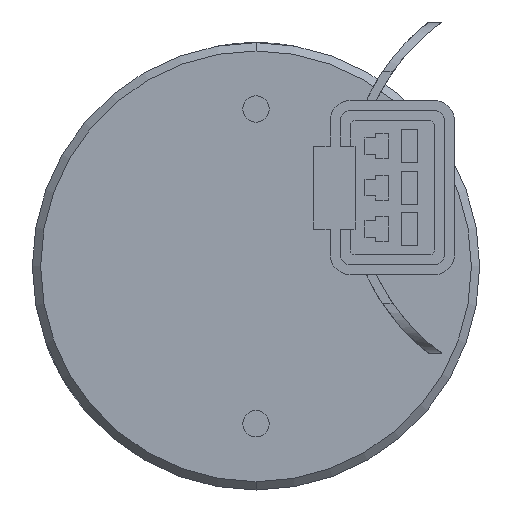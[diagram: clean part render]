
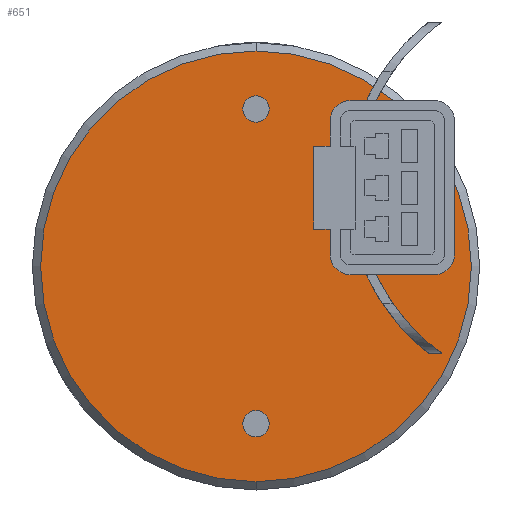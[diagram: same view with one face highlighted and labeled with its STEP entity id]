
A CAD part, left-side view. The second image highlights one B-rep face of the part: STEP entity #651.
In plain terms, the highlighted planar face has unit normal (-1, 0, 0).
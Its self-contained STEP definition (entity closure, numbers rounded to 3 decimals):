
#447 = EDGE_CURVE ( 'NONE', #16624, #16671, #17635, .T. ) ;
#448 = EDGE_LOOP ( 'NONE', ( #459, #619 ) ) ;
#449 = ORIENTED_EDGE ( 'NONE', *, *, #16607, .F. ) ;
#450 = EDGE_LOOP ( 'NONE', ( #454, #457 ) ) ;
#452 = EDGE_CURVE ( 'NONE', #16759, #16611, #17546, .T. ) ;
#454 = ORIENTED_EDGE ( 'NONE', *, *, #452, .F. ) ;
#455 = ORIENTED_EDGE ( 'NONE', *, *, #456, .F. ) ;
#456 = EDGE_CURVE ( 'NONE', #16749, #16713, #17655, .T. ) ;
#457 = ORIENTED_EDGE ( 'NONE', *, *, #16767, .F. ) ;
#459 = ORIENTED_EDGE ( 'NONE', *, *, #447, .T. ) ;
#606 = ORIENTED_EDGE ( 'NONE', *, *, #16650, .F. ) ;
#607 = EDGE_LOOP ( 'NONE', ( #624, #606 ) ) ;
#619 = ORIENTED_EDGE ( 'NONE', *, *, #16817, .T. ) ;
#620 = EDGE_CURVE ( 'NONE', #16648, #16804, #4085, .T. ) ;
#624 = ORIENTED_EDGE ( 'NONE', *, *, #620, .F. ) ;
#651 = ADVANCED_FACE ( 'NONE', ( #4207, #4196, #4185, #4208 ), #4133, .F. ) ;
#652 = EDGE_LOOP ( 'NONE', ( #455, #449 ) ) ;
#4072 = DIRECTION ( 'NONE',  ( 0., 0., 1. ) ) ;
#4073 = DIRECTION ( 'NONE',  ( -1., 0., 0. ) ) ;
#4074 = AXIS2_PLACEMENT_3D ( 'NONE', #4087, #4073, #4072 ) ;
#4085 = CIRCLE ( 'NONE', #4074, 1.65 ) ;
#4087 = CARTESIAN_POINT ( 'NONE',  ( 0., -8.227, 4.75 ) ) ;
#4111 = AXIS2_PLACEMENT_3D ( 'NONE', #4217, #4215, #4214 ) ;
#4133 = PLANE ( 'NONE',  #4111 ) ;
#4185 = FACE_BOUND ( 'NONE', #450, .T. ) ;
#4196 = FACE_BOUND ( 'NONE', #652, .T. ) ;
#4207 = FACE_BOUND ( 'NONE', #607, .T. ) ;
#4208 = FACE_OUTER_BOUND ( 'NONE', #448, .T. ) ;
#4214 = DIRECTION ( 'NONE',  ( 0., 0., -1. ) ) ;
#4215 = DIRECTION ( 'NONE',  ( 1., 0., 0. ) ) ;
#4217 = CARTESIAN_POINT ( 'NONE',  ( 0., 0., 0. ) ) ;
#8189 = CARTESIAN_POINT ( 'NONE',  ( 0., -8.227, 6.4 ) ) ;
#8267 = DIRECTION ( 'NONE',  ( 0., 0., 1. ) ) ;
#8268 = DIRECTION ( 'NONE',  ( -1., 0., 0. ) ) ;
#8269 = CARTESIAN_POINT ( 'NONE',  ( 0., -8.227, 4.75 ) ) ;
#8270 = AXIS2_PLACEMENT_3D ( 'NONE', #8269, #8268, #8267 ) ;
#8292 = CIRCLE ( 'NONE', #8270, 1.65 ) ;
#8328 = CARTESIAN_POINT ( 'NONE',  ( 0., 0., 13. ) ) ;
#8594 = CARTESIAN_POINT ( 'NONE',  ( 0., 0., 10.3 ) ) ;
#8643 = CARTESIAN_POINT ( 'NONE',  ( 0., 0., -8.7 ) ) ;
#8684 = CARTESIAN_POINT ( 'NONE',  ( 0., 0., 8.7 ) ) ;
#8691 = CIRCLE ( 'NONE', #8698, 0.8 ) ;
#8696 = DIRECTION ( 'NONE',  ( -1., 0., 0. ) ) ;
#8697 = CARTESIAN_POINT ( 'NONE',  ( 0., 0., -9.5 ) ) ;
#8698 = AXIS2_PLACEMENT_3D ( 'NONE', #8697, #8696, #8729 ) ;
#8729 = DIRECTION ( 'NONE',  ( 0., 0., 1. ) ) ;
#8798 = CARTESIAN_POINT ( 'NONE',  ( 0., -8.227, 3.1 ) ) ;
#8985 = DIRECTION ( 'NONE',  ( -1., 0., 0. ) ) ;
#8989 = CARTESIAN_POINT ( 'NONE',  ( 0., 0., 0. ) ) ;
#8990 = CIRCLE ( 'NONE', #9020, 13. ) ;
#9016 = DIRECTION ( 'NONE',  ( 0., 0., -1. ) ) ;
#9020 = AXIS2_PLACEMENT_3D ( 'NONE', #8989, #8985, #9016 ) ;
#14624 = AXIS2_PLACEMENT_3D ( 'NONE', #14691, #14690, #14689 ) ;
#14669 = CIRCLE ( 'NONE', #14624, 0.8 ) ;
#14689 = DIRECTION ( 'NONE',  ( 0., 0., -1. ) ) ;
#14690 = DIRECTION ( 'NONE',  ( -1., 0., 0. ) ) ;
#14691 = CARTESIAN_POINT ( 'NONE',  ( 0., 0., 9.5 ) ) ;
#14708 = CARTESIAN_POINT ( 'NONE',  ( 0., 0., -13. ) ) ;
#14725 = CARTESIAN_POINT ( 'NONE',  ( 0., 0., -10.3 ) ) ;
#16607 = EDGE_CURVE ( 'NONE', #16713, #16749, #14669, .T. ) ;
#16611 = VERTEX_POINT ( 'NONE', #14725 ) ;
#16624 = VERTEX_POINT ( 'NONE', #14708 ) ;
#16648 = VERTEX_POINT ( 'NONE', #8189 ) ;
#16650 = EDGE_CURVE ( 'NONE', #16804, #16648, #8292, .T. ) ;
#16671 = VERTEX_POINT ( 'NONE', #8328 ) ;
#16713 = VERTEX_POINT ( 'NONE', #8684 ) ;
#16749 = VERTEX_POINT ( 'NONE', #8594 ) ;
#16759 = VERTEX_POINT ( 'NONE', #8643 ) ;
#16767 = EDGE_CURVE ( 'NONE', #16611, #16759, #8691, .T. ) ;
#16804 = VERTEX_POINT ( 'NONE', #8798 ) ;
#16817 = EDGE_CURVE ( 'NONE', #16671, #16624, #8990, .T. ) ;
#17535 = CARTESIAN_POINT ( 'NONE',  ( 0., 0., 9.5 ) ) ;
#17546 = CIRCLE ( 'NONE', #17643, 0.8 ) ;
#17631 = DIRECTION ( 'NONE',  ( 0., 0., -1. ) ) ;
#17632 = DIRECTION ( 'NONE',  ( -1., 0., 0. ) ) ;
#17633 = CARTESIAN_POINT ( 'NONE',  ( 0., 0., 0. ) ) ;
#17634 = AXIS2_PLACEMENT_3D ( 'NONE', #17633, #17632, #17631 ) ;
#17635 = CIRCLE ( 'NONE', #17634, 13. ) ;
#17641 = DIRECTION ( 'NONE',  ( -1., 0., 0. ) ) ;
#17642 = CARTESIAN_POINT ( 'NONE',  ( 0., 0., -9.5 ) ) ;
#17643 = AXIS2_PLACEMENT_3D ( 'NONE', #17642, #17641, #17656 ) ;
#17655 = CIRCLE ( 'NONE', #17664, 0.8 ) ;
#17656 = DIRECTION ( 'NONE',  ( 0., 0., 1. ) ) ;
#17662 = DIRECTION ( 'NONE',  ( 0., 0., -1. ) ) ;
#17663 = DIRECTION ( 'NONE',  ( -1., 0., 0. ) ) ;
#17664 = AXIS2_PLACEMENT_3D ( 'NONE', #17535, #17663, #17662 ) ;
